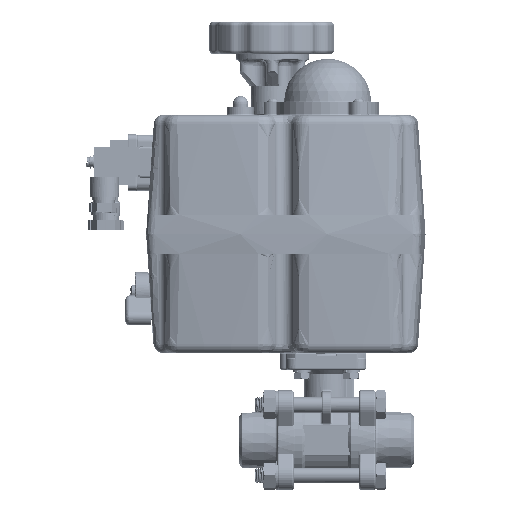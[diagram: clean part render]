
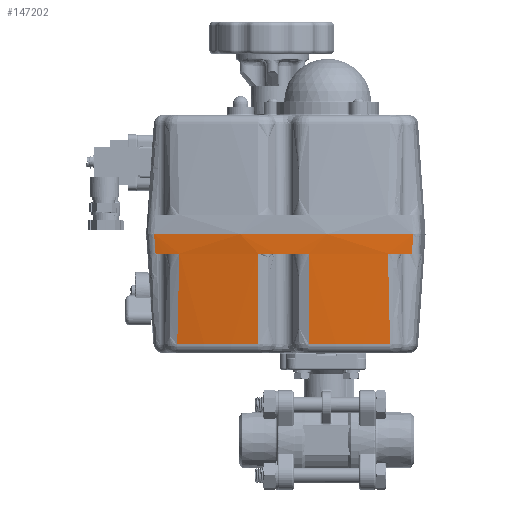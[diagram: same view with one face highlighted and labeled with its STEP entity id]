
A CAD part, front view. The second image highlights one B-rep face of the part: STEP entity #147202.
In plain terms, the highlighted conical face has half-angle 4 degrees and reference radius 403.75 mm.
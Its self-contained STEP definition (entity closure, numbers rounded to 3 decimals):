
#146276=CARTESIAN_POINT('',(112.017,-147.068,-61.893));
#146277=VERTEX_POINT('',#146276);
#146291=CARTESIAN_POINT('',(85.962,-147.068,-61.893));
#146292=VERTEX_POINT('',#146291);
#146293=CARTESIAN_POINT('',(98.989,255.772,-61.893));
#146294=DIRECTION('',(0.0,0.0,-1.0));
#146295=DIRECTION('',(1.0,0.0,0.0));
#146296=AXIS2_PLACEMENT_3D('',#146293,#146294,#146295);
#146297=CIRCLE('',#146296,403.051);
#146298=EDGE_CURVE('',#146277,#146292,#146297,.T.);
#146460=CARTESIAN_POINT('',(165.183,-141.806,-61.893));
#146461=VERTEX_POINT('',#146460);
#146496=CARTESIAN_POINT('',(152.804,-143.67,-61.893));
#146497=VERTEX_POINT('',#146496);
#146498=CARTESIAN_POINT('',(98.989,255.772,-61.893));
#146499=DIRECTION('',(0.0,0.0,-1.0));
#146500=DIRECTION('',(1.0,0.0,0.0));
#146501=AXIS2_PLACEMENT_3D('',#146498,#146499,#146500);
#146502=CIRCLE('',#146501,403.051);
#146503=EDGE_CURVE('',#146461,#146497,#146502,.T.);
#146848=CARTESIAN_POINT('',(32.858,-141.817,-61.893));
#146849=VERTEX_POINT('',#146848);
#146884=CARTESIAN_POINT('',(32.151,-142.407,-51.893));
#146885=VERTEX_POINT('',#146884);
#146886=CARTESIAN_POINT('',(32.858,-141.817,-61.893));
#146887=CARTESIAN_POINT('',(32.66,-141.982,-59.097));
#146888=CARTESIAN_POINT('',(32.425,-142.179,-55.764));
#146889=CARTESIAN_POINT('',(32.189,-142.376,-52.431));
#146890=CARTESIAN_POINT('',(32.151,-142.407,-51.893));
#146891=B_SPLINE_CURVE_WITH_KNOTS('',3,(#146886,#146887,#146888,#146889,#146890),.UNSPECIFIED.,.F.,.U.,(4,1,4),(5.021,13.443,15.063),.UNSPECIFIED.);
#146892=EDGE_CURVE('',#146849,#146885,#146891,.T.);
#146956=CARTESIAN_POINT('',(45.175,-143.67,-61.893));
#146957=VERTEX_POINT('',#146956);
#146971=CARTESIAN_POINT('',(98.989,255.772,-61.893));
#146972=DIRECTION('',(0.0,0.0,-1.0));
#146973=DIRECTION('',(1.0,0.0,0.0));
#146974=AXIS2_PLACEMENT_3D('',#146971,#146972,#146973);
#146975=CIRCLE('',#146974,403.051);
#146976=EDGE_CURVE('',#146957,#146849,#146975,.T.);
#147107=CARTESIAN_POINT('',(98.989,255.772,-51.893));
#147108=DIRECTION('',(0.,0.,1.0));
#147109=DIRECTION('',(1.0,0.0,0.0));
#147110=AXIS2_PLACEMENT_3D('',#147107,#147108,#147109);
#147111=CONICAL_SURFACE('',#147110,403.75,4.);
#147112=CARTESIAN_POINT('',(153.899,-140.214,-108.742));
#147113=VERTEX_POINT('',#147112);
#147114=CARTESIAN_POINT('',(112.018,-143.791,-108.742));
#147115=VERTEX_POINT('',#147114);
#147116=CARTESIAN_POINT('',(98.989,255.772,-108.742));
#147117=DIRECTION('',(0.,0.,-1.0));
#147118=DIRECTION('',(0.085,-0.996,0.));
#147119=AXIS2_PLACEMENT_3D('',#147116,#147117,#147118);
#147120=CIRCLE('',#147119,399.775);
#147121=EDGE_CURVE('',#147113,#147115,#147120,.T.);
#147122=ORIENTED_EDGE('',*,*,#147121,.F.);
#147123=CARTESIAN_POINT('',(152.804,-143.67,-61.893));
#147124=CARTESIAN_POINT('',(152.821,-143.567,-63.318));
#147125=CARTESIAN_POINT('',(152.84,-143.464,-64.743));
#147126=CARTESIAN_POINT('',(152.876,-143.284,-67.225));
#147127=CARTESIAN_POINT('',(152.892,-143.208,-68.281));
#147128=CARTESIAN_POINT('',(152.959,-142.895,-72.584));
#147129=CARTESIAN_POINT('',(153.017,-142.658,-75.831));
#147130=CARTESIAN_POINT('',(153.186,-142.039,-84.273));
#147131=CARTESIAN_POINT('',(153.309,-141.656,-89.467));
#147132=CARTESIAN_POINT('',(153.583,-140.92,-99.355));
#147133=CARTESIAN_POINT('',(153.731,-140.569,-104.049));
#147134=CARTESIAN_POINT('',(153.899,-140.214,-108.742));
#147135=B_SPLINE_CURVE_WITH_KNOTS('',3,(#147123,#147124,#147125,#147126,#147127,#147128,#147129,#147130,#147131,#147132,#147133,#147134),.UNSPECIFIED.,.F.,.U.,(4,2,2,2,2,4),(13.201,17.487,20.665,30.433,46.062,60.189),.UNSPECIFIED.);
#147136=EDGE_CURVE('',#146497,#147113,#147135,.T.);
#147137=ORIENTED_EDGE('',*,*,#147136,.F.);
#147138=ORIENTED_EDGE('',*,*,#146503,.F.);
#147139=CARTESIAN_POINT('',(165.826,-142.408,-51.893));
#147140=VERTEX_POINT('',#147139);
#147141=CARTESIAN_POINT('',(165.826,-142.408,-51.893));
#147142=CARTESIAN_POINT('',(165.791,-142.375,-52.43));
#147143=CARTESIAN_POINT('',(165.757,-142.343,-52.967));
#147144=CARTESIAN_POINT('',(165.543,-142.143,-56.3));
#147145=CARTESIAN_POINT('',(165.363,-141.974,-59.097));
#147146=CARTESIAN_POINT('',(165.183,-141.806,-61.893));
#147147=B_SPLINE_CURVE_WITH_KNOTS('',3,(#147141,#147142,#147143,#147144,#147145,#147146),.UNSPECIFIED.,.F.,.U.,(4,2,4),(5.022,6.639,15.06),.UNSPECIFIED.);
#147148=EDGE_CURVE('',#147140,#146461,#147147,.T.);
#147149=ORIENTED_EDGE('',*,*,#147148,.F.);
#147150=CARTESIAN_POINT('',(98.989,255.772,-51.893));
#147151=DIRECTION('',(0.0,0.0,1.0));
#147152=DIRECTION('',(1.0,0.0,0.0));
#147153=AXIS2_PLACEMENT_3D('',#147150,#147151,#147152);
#147154=CIRCLE('',#147153,403.75);
#147155=EDGE_CURVE('',#146885,#147140,#147154,.T.);
#147156=ORIENTED_EDGE('',*,*,#147155,.F.);
#147157=ORIENTED_EDGE('',*,*,#146892,.F.);
#147158=ORIENTED_EDGE('',*,*,#146976,.F.);
#147159=CARTESIAN_POINT('',(44.079,-140.214,-108.742));
#147160=VERTEX_POINT('',#147159);
#147161=CARTESIAN_POINT('',(44.079,-140.214,-108.742));
#147162=CARTESIAN_POINT('',(44.124,-140.309,-107.49));
#147163=CARTESIAN_POINT('',(44.168,-140.403,-106.238));
#147164=CARTESIAN_POINT('',(44.266,-140.623,-103.316));
#147165=CARTESIAN_POINT('',(44.319,-140.748,-101.645));
#147166=CARTESIAN_POINT('',(44.402,-140.951,-98.931));
#147167=CARTESIAN_POINT('',(44.434,-141.029,-97.887));
#147168=CARTESIAN_POINT('',(44.558,-141.349,-93.597));
#147169=CARTESIAN_POINT('',(44.643,-141.59,-90.351));
#147170=CARTESIAN_POINT('',(44.845,-142.213,-81.91));
#147171=CARTESIAN_POINT('',(44.949,-142.594,-76.716));
#147172=CARTESIAN_POINT('',(45.088,-143.206,-68.311));
#147173=CARTESIAN_POINT('',(45.135,-143.438,-65.102));
#147174=CARTESIAN_POINT('',(45.175,-143.67,-61.893));
#147175=B_SPLINE_CURVE_WITH_KNOTS('',3,(#147161,#147162,#147163,#147164,#147165,#147166,#147167,#147168,#147169,#147170,#147171,#147172,#147173,#147174),.UNSPECIFIED.,.F.,.U.,(4,2,2,2,2,2,4),(17.956,21.725,26.752,29.895,39.663,55.291,64.945),.UNSPECIFIED.);
#147176=EDGE_CURVE('',#147160,#146957,#147175,.T.);
#147177=ORIENTED_EDGE('',*,*,#147176,.F.);
#147178=CARTESIAN_POINT('',(85.96,-143.791,-108.742));
#147179=VERTEX_POINT('',#147178);
#147180=CARTESIAN_POINT('',(98.989,255.772,-108.742));
#147181=DIRECTION('',(0.,0.,-1.0));
#147182=DIRECTION('',(-0.085,-0.996,0.));
#147183=AXIS2_PLACEMENT_3D('',#147180,#147181,#147182);
#147184=CIRCLE('',#147183,399.775);
#147185=EDGE_CURVE('',#147179,#147160,#147184,.T.);
#147186=ORIENTED_EDGE('',*,*,#147185,.F.);
#147187=CARTESIAN_POINT('',(85.962,-147.068,-61.893));
#147188=DIRECTION('',(0.,0.07,-0.998));
#147189=VECTOR('',#147188,46.963);
#147190=LINE('',#147187,#147189);
#147191=EDGE_CURVE('',#146292,#147179,#147190,.T.);
#147192=ORIENTED_EDGE('',*,*,#147191,.F.);
#147193=ORIENTED_EDGE('',*,*,#146298,.F.);
#147194=CARTESIAN_POINT('',(112.018,-143.791,-108.742));
#147195=DIRECTION('',(0.,-0.07,0.998));
#147196=VECTOR('',#147195,46.963);
#147197=LINE('',#147194,#147196);
#147198=EDGE_CURVE('',#147115,#146277,#147197,.T.);
#147199=ORIENTED_EDGE('',*,*,#147198,.F.);
#147200=EDGE_LOOP('',(#147122,#147137,#147138,#147149,#147156,#147157,#147158,#147177,#147186,#147192,#147193,#147199));
#147201=FACE_OUTER_BOUND('',#147200,.T.);
#147202=ADVANCED_FACE('',(#147201),#147111,.T.);
